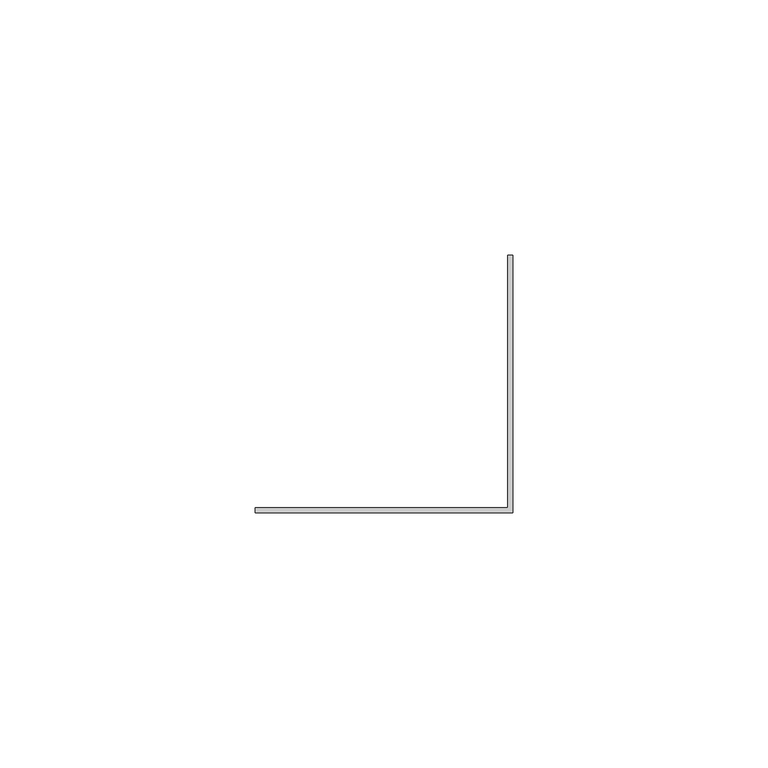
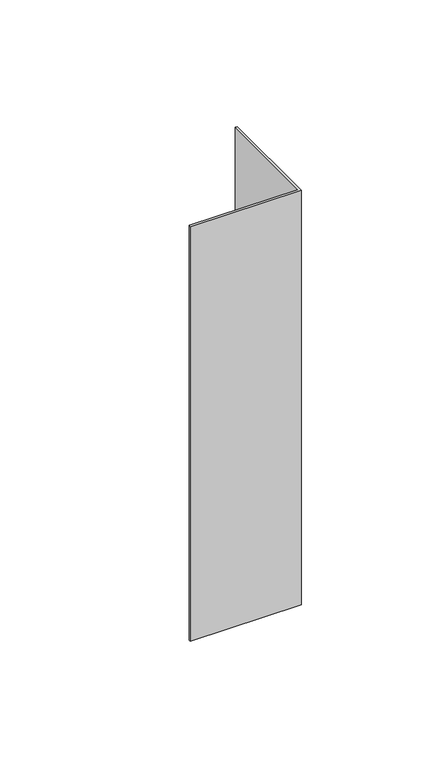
"""IFC4 building model written with IfcOpenShell, lengths in millimetres: member geometry, Meneau d'angle en L : ATELIERS 3S_Angle rentrant."""

import ifcopenshell
import ifcopenshell.guid

model = None  # the IFC model being written
_history = None  # IfcOwnerHistory: only IFC2X3 demands one
_inside = {}  # id of a spatial element -> (the spatial element, [elements in it])
_under = {}  # id of a project, library or spatial element -> (it, [spatial elements below it])
_declared = {}  # id of a project -> (the project, [libraries it declares])
_typed = {}  # id of a type object -> (the type object, [elements of that type])
_made_of = {}  # id of a material, layer set ... -> (it, [elements and type objects made of it])


def new_model(schema):
    """Start an empty IFC model of exactly this schema.

    Asked for "IFC4X3", IfcOpenShell would pick the latest addendum, in which some entities
    have other attributes; the version numbers below select the first issue.
    IFC2X3 requires an IfcOwnerHistory on every rooted entity: one is made here for all.
    """
    global model, _history
    if schema == "IFC4X3":
        model = ifcopenshell.file(schema_version=(4, 3, 0, 0))
    else:
        model = ifcopenshell.file(schema=schema)
    _inside.clear()
    _under.clear()
    _declared.clear()
    _typed.clear()
    _made_of.clear()
    _history = None
    if model.schema == "IFC2X3":
        org = make("IfcOrganization", Name="unknown")
        user = make(
            "IfcPersonAndOrganization",
            ThePerson=make("IfcPerson", FamilyName="unknown"),
            TheOrganization=org,
        )
        app = make(
            "IfcApplication",
            ApplicationDeveloper=org,
            Version="unknown",
            ApplicationFullName="unknown",
            ApplicationIdentifier="unknown",
        )
        _history = make(
            "IfcOwnerHistory",
            OwningUser=user,
            OwningApplication=app,
            ChangeAction="ADDED",
            CreationDate=0,
        )
    return model


def make(cls, **values):
    """One entity of the class cls with the attributes given. An attribute that is None is left unset."""
    return model.create_entity(
        cls, **{name: value for name, value in values.items() if value is not None}
    )


def rooted(cls, **values):
    """An entity with a GlobalId (a new one), such as an element, a storey or a relation."""
    return make(cls, GlobalId=ifcopenshell.guid.new(), OwnerHistory=_history, **values)


def si_unit(unit_type, name, prefix=None):
    """IfcSIUnit, for example si_unit("LENGTHUNIT", "METRE", prefix="MILLI")."""
    return make("IfcSIUnit", UnitType=unit_type, Prefix=prefix, Name=name)


def assignment(units):
    """IfcUnitAssignment: the units of a project."""
    return None if units is None else make("IfcUnitAssignment", Units=units)


def point(xyz):
    """IfcCartesianPoint."""
    return None if xyz is None else make("IfcCartesianPoint", Coordinates=xyz)


def direction(xyz):
    """IfcDirection."""
    return None if xyz is None else make("IfcDirection", DirectionRatios=xyz)


def frame(location, z_axis=None, x_axis=None):
    """IfcAxis2Placement3D, a coordinate frame: its origin and axes. An axis left out is left unset."""
    return make(
        "IfcAxis2Placement3D",
        Location=point(location),
        Axis=direction(z_axis),
        RefDirection=direction(x_axis),
    )


def origin():
    """The frame at (0, 0, 0) with its axes left unset."""
    return frame((0.0, 0.0, 0.0))


def place(relative_to, where):
    """IfcLocalPlacement: puts the frame where relative to a parent placement (None: the world)."""
    return make(
        "IfcLocalPlacement", PlacementRelTo=relative_to, RelativePlacement=where
    )


def context(
    kind, dimensions, precision=None, world=None, true_north=None, identifier=None
):
    """IfcGeometricRepresentationContext, for example the 3D "Model" context."""
    return make(
        "IfcGeometricRepresentationContext",
        ContextIdentifier=identifier,
        ContextType=kind,
        CoordinateSpaceDimension=dimensions,
        Precision=precision,
        WorldCoordinateSystem=world,
        TrueNorth=true_north,
    )


def project(units=None, contexts=None):
    """IfcProject with its units and contexts."""
    return rooted(
        "IfcProject",
        Name="project",
        RepresentationContexts=contexts,
        UnitsInContext=assignment(units),
    )


def spatial(cls, under=None, at=None, **own):
    """A site, building, storey or space (cls), placed at a placement, below another one or the project."""
    s = rooted(cls, ObjectPlacement=at, **own)
    if under is not None:
        _under.setdefault(under.id(), (under, []))[1].append(s)
    return s


def polyline(points):
    """IfcPolyline through the points."""
    return make("IfcPolyline", Points=[point(p) for p in points])


def outline(outer, holes=None, kind="AREA"):
    """IfcArbitraryClosedProfileDef: a profile drawn as a closed curve; with holes, ...WithVoids."""
    if holes is None:
        return make("IfcArbitraryClosedProfileDef", ProfileType=kind, OuterCurve=outer)
    return make(
        "IfcArbitraryProfileDefWithVoids",
        ProfileType=kind,
        OuterCurve=outer,
        InnerCurves=holes,
    )


def extrude(swept, where, along, depth):
    """IfcExtrudedAreaSolid: the profile swept, set in the frame where, extruded along a direction by depth."""
    return make(
        "IfcExtrudedAreaSolid",
        SweptArea=swept,
        Position=where,
        ExtrudedDirection=direction(along),
        Depth=depth,
    )


def shape(context_of_items, identifier, shape_type, items):
    """IfcShapeRepresentation: the items that make up one representation, for example the "Body"."""
    return make(
        "IfcShapeRepresentation",
        ContextOfItems=context_of_items,
        RepresentationIdentifier=identifier,
        RepresentationType=shape_type,
        Items=items,
    )


def source(mapping_origin, context_of_items, identifier, shape_type, items):
    """IfcRepresentationMap: a shape defined once, which mapped items show again and again."""
    return make(
        "IfcRepresentationMap",
        MappingOrigin=mapping_origin,
        MappedRepresentation=shape(context_of_items, identifier, shape_type, items),
    )


def transform(
    local_origin,
    x_axis=None,
    y_axis=None,
    z_axis=None,
    scale=None,
    scale2=None,
    scale3=None,
    uniform=True,
):
    """IfcCartesianTransformationOperator3D, or its non-uniform kind. x_axis, y_axis, z_axis: its Axis1, 2, 3."""
    if uniform:
        return make(
            "IfcCartesianTransformationOperator3D",
            Axis1=direction(x_axis),
            Axis2=direction(y_axis),
            LocalOrigin=point(local_origin),
            Scale=scale,
            Axis3=direction(z_axis),
        )
    return make(
        "IfcCartesianTransformationOperator3DnonUniform",
        Axis1=direction(x_axis),
        Axis2=direction(y_axis),
        LocalOrigin=point(local_origin),
        Scale=scale,
        Axis3=direction(z_axis),
        Scale2=scale2,
        Scale3=scale3,
    )


def mapped(mapping_source, mapping_target):
    """IfcMappedItem: shows the shape of a source again, moved by a transform."""
    return make(
        "IfcMappedItem", MappingSource=mapping_source, MappingTarget=mapping_target
    )


def made_of(thing, what):
    """Note that an element or type object is made of a material, layer set ...; save() writes the relation."""
    if what is not None:
        _made_of.setdefault(what.id(), (what, []))[1].append(thing)
    return thing


def element(
    cls,
    number,
    at=None,
    inside=None,
    cuts=None,
    type_object=None,
    material=None,
    context=None,
    identifier="Body",
    shape_type=None,
    held_by="IfcProductDefinitionShape",
    body=None,
    shapes=None,
    **own,
):
    """One element of the class cls, such as IfcWall. Its Tag is "e" and its number.

    at: its placement. inside: the storey or other place that contains it. cuts: it is an
    opening in that element (IfcRelVoidsElement). A single representation is given by context,
    identifier, shape_type and body (its items); several are given by shapes. held_by: the class
    of the entity that holds the representations. save() writes the other relations.
    """
    e = rooted(cls, Tag="e%d" % number, ObjectPlacement=at, **own)
    if body is not None:
        shapes = [shape(context, identifier, shape_type, body)]
    if shapes is not None:
        e.Representation = make(held_by, Representations=shapes)
    if inside is not None:
        _inside.setdefault(inside.id(), (inside, []))[1].append(e)
    if cuts is not None:
        rooted(
            "IfcRelVoidsElement", RelatingBuildingElement=cuts, RelatedOpeningElement=e
        )
    if type_object is not None:
        _typed.setdefault(type_object.id(), (type_object, []))[1].append(e)
    return made_of(e, material)


def aggregate(whole, parts):
    """IfcRelAggregates: a whole, such as a stair, and the parts it consists of."""
    return rooted("IfcRelAggregates", RelatingObject=whole, RelatedObjects=parts)


def save(model, path):
    """Write the relations noted so far, then the file.

    IfcRelAggregates (storeys below a building ...), IfcRelContainedInSpatialStructure (elements
    in a storey), IfcRelDefinesByType, IfcRelAssociatesMaterial and IfcRelDeclares: one each for
    every whole, place, type object, material and project.
    """
    for whole, parts in _under.values():
        aggregate(whole, parts)
    for where, things in _inside.values():
        rooted(
            "IfcRelContainedInSpatialStructure",
            RelatedElements=things,
            RelatingStructure=where,
        )
    for kind, things in _typed.values():
        rooted("IfcRelDefinesByType", RelatedObjects=things, RelatingType=kind)
    for what, things in _made_of.values():
        rooted("IfcRelAssociatesMaterial", RelatedObjects=things, RelatingMaterial=what)
    for by, libraries in _declared.values():
        rooted("IfcRelDeclares", RelatingContext=by, RelatedDefinitions=libraries)
    model.write(path)


def member_f8e8c80e(model_context):
    return source(origin(), model_context, "Body", "SweptSolid", [
        extrude(outline(polyline([(0.0, 50.5), (0.0, 0.0), (-50.5, 0.0), (-50.5, 1.0), (-1.0, 1.0), (-1.0, 50.5), (0.0, 50.5)])), frame((0.0, 0.0, -200.0), z_axis=(0.0, 0.0, 1.0), x_axis=(1.0, 0.0, 0.0)), (0.0, 0.0, 1.0), 200.0),
    ])


if __name__ == "__main__":
    model = new_model("IFC4")
    model_context = context("Model", 3, world=origin())
    ifc_project = project(units=[si_unit("LENGTHUNIT", "METRE", prefix="MILLI")], contexts=[model_context])
    site = spatial("IfcSite", under=ifc_project)
    building = spatial("IfcBuilding", under=site)
    placement = place(None, origin())
    member_shape = member_f8e8c80e(model_context)
    element("IfcMember", 1, ObjectType="Meneau d'angle en L : ATELIERS 3S_Angle rentrant", at=placement, inside=building, context=model_context, shape_type="MappedRepresentation", body=[
        mapped(member_shape, transform((0.0, 0.0, 0.0), x_axis=(1.0, 0.0, 0.0), y_axis=(0.0, 1.0, 0.0), z_axis=(0.0, 0.0, 1.0))),
    ])
    save(model, "model.ifc")
